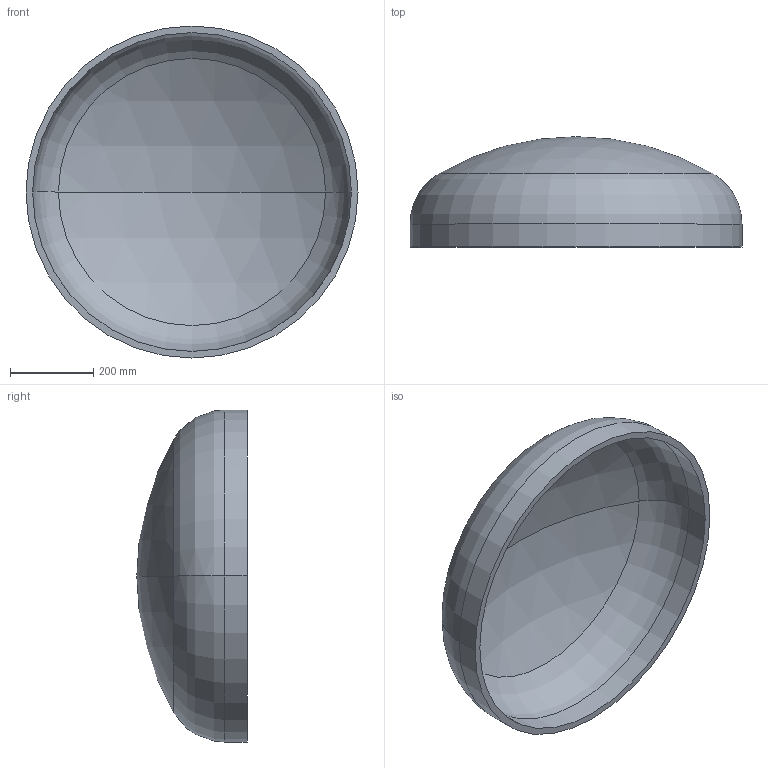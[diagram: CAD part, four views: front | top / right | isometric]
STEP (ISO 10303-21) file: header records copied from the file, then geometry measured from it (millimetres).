
FILE_DESCRIPTION (( 'STEP AP203' ), '1' );
FILE_NAME ('DIN 28013 Korbbogenform_-_Boden DIN 28013 - 800 x 55 - I - s=16.step', '2016-07-01T08:13:13', ( '' ), ( '' ), 'SwSTEP 2.0', 'SolidWorks 2013', '' );
FILE_SCHEMA (( 'CONFIG_CONTROL_DESIGN' ));
Length unit declared in the file: millimetre
Products named in the file (1): DIN 28013 Korbbogenform_-_Boden DIN 28013 - 800 x 55 - I - s=16
Bounding box: 800 x 265.87 x 800 mm (x, y, z)
Volume: 13048187.4 mm3; surface area: 1670967.2 mm2
Topology: 1 solids, 1 shells, 13 faces, 24 edges, 14 vertices
Faces by surface type: torus 4, cylinder 4, sphere 4, plane 1
Entity records: 407 total; most frequent: DIRECTION 72, CARTESIAN_POINT 52, ORIENTED_EDGE 48, AXIS2_PLACEMENT_3D 34, EDGE_CURVE 24, CIRCLE 20, EDGE_LOOP 14, VERTEX_POINT 14
